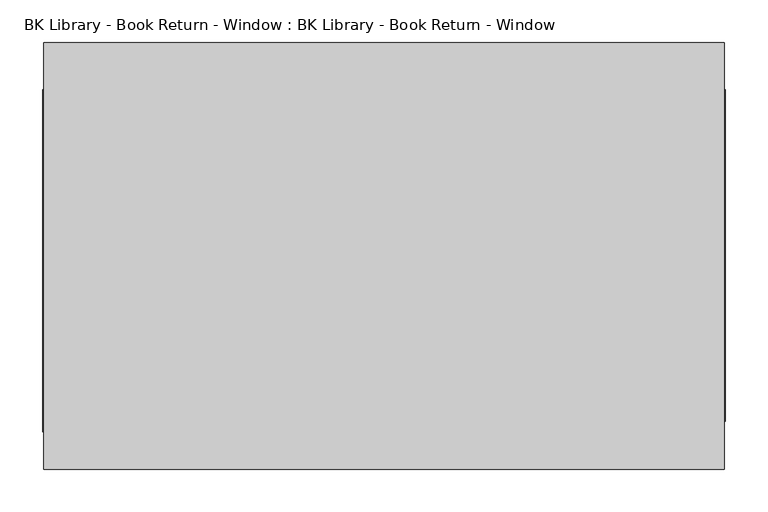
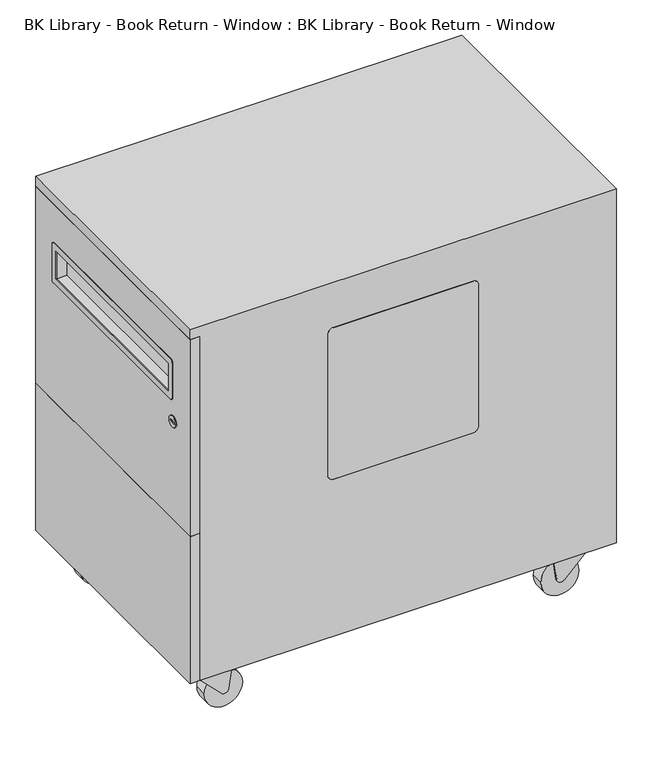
"""IFC4 building model written with IfcOpenShell, lengths in millimetres: furniture geometry, BK Library - Book Return - Window : BK Library - Book Return - Window."""

from ifc_helpers import new_model, si_unit, point, frame, frame_2d, origin, place, context, project, spatial, polyline, circle_curve, trimmed, segment, composite_curve, outline, extrude, source, transform, mapped, element, save
from ifc_brep_helpers import plane_surface, revolved_surface, advanced_brep


def bk_library_book_return_window_bk_library_book_return_window_ee8f2ecb(model_context):
    return source(origin(), model_context, "Body", "SolidModel", [
        extrude(outline(composite_curve([segment(polyline([(697.9636623, -141.0), (417.9636623, -141.0)]), True, "CONTINUOUS"), segment(trimmed(circle_curve(frame_2d((417.9636623, -131.0)), 10.0), [point((417.9636623, -141.0))], [point((407.9636623, -131.0))], False, "CARTESIAN"), True, "CONTINUOUS"), segment(polyline([(407.9636623, -131.0), (407.9636623, 131.0)]), True, "CONTINUOUS"), segment(trimmed(circle_curve(frame_2d((417.9636623, 131.0)), 10.0), [point((407.9636623, 131.0))], [point((417.9636623, 141.0))], False, "CARTESIAN"), True, "CONTINUOUS"), segment(polyline([(417.9636623, 141.0), (697.9636623, 141.0)]), True, "CONTINUOUS"), segment(trimmed(circle_curve(frame_2d((697.9636623, 131.0)), 10.0), [point((697.9636623, 141.0))], [point((707.9636623, 131.0))], False, "CARTESIAN"), True, "CONTINUOUS"), segment(polyline([(707.9636623, 131.0), (707.9636623, -131.0)]), True, "CONTINUOUS"), segment(trimmed(circle_curve(frame_2d((697.9636623, -131.0)), 10.0), [point((707.9636623, -131.0))], [point((697.9636623, -141.0))], False, "CARTESIAN"), True, "CONTINUOUS")], self_intersect=False)), frame((0.0, -251.0, 0.0), z_axis=(0.0, 1.0, 0.0), x_axis=(0.0, 0.0, 1.0)), (0.0, 0.0, 1.0), 20.0),
        extrude(outline(composite_curve([segment(trimmed(circle_curve(frame_2d((189.5, 697.4636623)), 5.0), [point((189.5, 702.4636623))], [point((194.5, 697.4636623))], False, "CARTESIAN"), True, "CONTINUOUS"), segment(polyline([(194.5, 697.4636623), (194.5, 628.4636623)]), True, "CONTINUOUS"), segment(trimmed(circle_curve(frame_2d((189.5, 628.4636623)), 5.0), [point((194.5, 628.4636623))], [point((189.5, 623.4636623))], False, "CARTESIAN"), True, "CONTINUOUS"), segment(polyline([(189.5, 623.4636623), (-189.5, 623.4636623)]), True, "CONTINUOUS"), segment(trimmed(circle_curve(frame_2d((-189.5, 628.4636623)), 5.0), [point((-189.5, 623.4636623))], [point((-194.5, 628.4636623))], False, "CARTESIAN"), True, "CONTINUOUS"), segment(polyline([(-194.5, 628.4636623), (-194.5, 697.4636623)]), True, "CONTINUOUS"), segment(trimmed(circle_curve(frame_2d((-189.5, 697.4636623)), 5.0), [point((-194.5, 697.4636623))], [point((-189.5, 702.4636623))], False, "CARTESIAN"), True, "CONTINUOUS"), segment(polyline([(-189.5, 702.4636623), (189.5, 702.4636623)]), True, "CONTINUOUS")], self_intersect=False), holes=[polyline([(182.5, 690.4636623), (-182.5, 690.4636623), (-182.5, 635.4636623), (182.5, 635.4636623), (182.5, 690.4636623)])]), frame((399.0, 0.0, 0.0), z_axis=(1.0, 0.0, 0.0), x_axis=(0.0, 1.0, 0.0)), (0.0, 0.0, 1.0), 1.5),
        advanced_brep(
        [(380.0, 225.0, 117.9690471), (380.0, -231.0, 117.9690471), (380.0, -231.0, 777.9636623), (380.0, 225.0, 777.9636623), (380.0, 182.5, 690.4636623), (380.0, -182.5, 690.4636623), (380.0, -182.5, 635.4636623), (380.0, 182.5, 635.4636623), (399.0, 250.0, 796.9636623), (399.0, -251.0, 796.9636623), (399.0, -251.0, 97.0), (399.0, 250.0, 97.0), (399.0, 182.5, 690.4636623), (399.0, 182.5, 635.4636623), (399.0, -182.5, 635.4636623), (399.0, -182.5, 690.4636623), (-380.0, 250.0, 97.0), (-380.0, -251.0, 97.0), (-380.0, -251.0, 777.9636623), (-380.0, -231.0, 777.9636623), (-380.0, -231.0, 117.9690471), (-380.0, 225.0, 117.9690471), (-380.0, 225.0, 777.9636623), (-380.0, 250.0, 777.9636623), (-399.0, 250.0, 777.9636623), (-399.0, 250.0, 796.9636623), (-399.0, -251.0, 796.9636623), (-399.0, -251.0, 777.9636623), (-141.0, -251.0, 417.9636623), (-141.0, -251.0, 697.9636623), (-131.0, -251.0, 707.9636623), (131.0, -251.0, 707.9636623), (141.0, -251.0, 697.9636623), (141.0, -251.0, 417.9636623), (131.0, -251.0, 407.9636623), (-131.0, -251.0, 407.9636623), (-141.0, -231.0, 697.9636623), (-141.0, -231.0, 417.9636623), (-131.0, -231.0, 407.9636623), (131.0, -231.0, 407.9636623), (141.0, -231.0, 417.9636623), (141.0, -231.0, 697.9636623), (131.0, -231.0, 707.9636623), (-131.0, -231.0, 707.9636623)],
        [
            (0, 1),
            (1, 2),
            (2, 3),
            (3, 0),
            (4, 5),
            (5, 6),
            (6, 7),
            (7, 4),
            (8, 9),
            (9, 10),
            (10, 11),
            (11, 8),
            (12, 13),
            (13, 14),
            (14, 15),
            (15, 12),
            (16, 17),
            (17, 18),
            (18, 19),
            (19, 20),
            (20, 21),
            (21, 22),
            (22, 23),
            (23, 16),
            (20, 1),
            (0, 21),
            (10, 17),
            (16, 11),
            (23, 24),
            (24, 25),
            (25, 8),
            (25, 26),
            (26, 9),
            (26, 27),
            (27, 18),
            (28, 29),
            (29, 30, circle_curve(frame((-131.0, -251.0, 697.9636623), z_axis=(0.0, 1.0, 0.0), x_axis=(1.0, 0.0, 0.0)), 10.0)),
            (30, 31),
            (31, 32, circle_curve(frame((131.0, -251.0, 697.9636623), z_axis=(0.0, 1.0, 0.0), x_axis=(1.0, 0.0, 0.0)), 10.0)),
            (32, 33),
            (33, 34, circle_curve(frame((131.0, -251.0, 417.9636623), z_axis=(0.0, 1.0, 0.0), x_axis=(1.0, 0.0, 0.0)), 10.0)),
            (34, 35),
            (35, 28, circle_curve(frame((-131.0, -251.0, 417.9636623), z_axis=(0.0, 1.0, 0.0), x_axis=(1.0, 0.0, 0.0)), 10.0)),
            (2, 19),
            (27, 24),
            (22, 3),
            (36, 37),
            (37, 38, circle_curve(frame((-131.0, -231.0, 417.9636623), z_axis=(0.0, -1.0, 0.0), x_axis=(1.0, 0.0, 0.0)), 10.0)),
            (38, 39),
            (39, 40, circle_curve(frame((131.0, -231.0, 417.9636623), z_axis=(0.0, -1.0, 0.0), x_axis=(1.0, 0.0, 0.0)), 10.0)),
            (40, 41),
            (41, 42, circle_curve(frame((131.0, -231.0, 697.9636623), z_axis=(0.0, -1.0, 0.0), x_axis=(1.0, 0.0, 0.0)), 10.0)),
            (42, 43),
            (43, 36, circle_curve(frame((-131.0, -231.0, 697.9636623), z_axis=(0.0, -1.0, 0.0), x_axis=(1.0, 0.0, 0.0)), 10.0)),
            (4, 12),
            (15, 5),
            (14, 6),
            (13, 7),
            (36, 29),
            (28, 37),
            (35, 38),
            (34, 39),
            (33, 40),
            (32, 41),
            (31, 42),
            (30, 43),
        ],
        [
            plane_surface(frame((380.0, -231.0, 134.7192085), z_axis=(-1.0, 0.0, 0.0), x_axis=(0.0, 0.0, 1.0))),
            plane_surface(frame((399.0, 194.2115841, 117.9690471), z_axis=(1.0, 0.0, 0.0), x_axis=(0.0, -1.0, 0.0))),
            plane_surface(frame((-380.0, 194.2115841, 117.9690471), z_axis=(-1.0, 0.0, 0.0), x_axis=(0.0, 1.0, 0.0))),
            plane_surface(frame((399.0, 225.0, 117.9690471), z_axis=(0.0, 0.0, 1.0), x_axis=(-1.0, 0.0, 0.0))),
            plane_surface(frame((399.0, -251.0, 97.0), z_axis=(0.0, 0.0, -1.0), x_axis=(-1.0, 0.0, 0.0))),
            plane_surface(frame((399.0, 250.0, 97.0), z_axis=(0.0, 1.0, 0.0), x_axis=(-1.0, 0.0, 0.0))),
            plane_surface(frame((399.0, 250.0, 796.9636623), z_axis=(0.0, 0.0, 1.0), x_axis=(-1.0, 0.0, 0.0))),
            plane_surface(frame((399.0, -251.0, 796.9636623), z_axis=(0.0, -1.0, 0.0), x_axis=(-1.0, 0.0, 0.0))),
            plane_surface(frame((399.0, -231.0, 777.9636623), z_axis=(0.0, 0.0, -1.0), x_axis=(-1.0, 0.0, 0.0))),
            plane_surface(frame((399.0, 225.0, 777.9636623), z_axis=(0.0, -1.0, 0.0), x_axis=(-1.0, 0.0, 0.0))),
            plane_surface(frame((399.0, -231.0, 117.9690471), z_axis=(0.0, 1.0, 0.0), x_axis=(-1.0, 0.0, 0.0))),
            plane_surface(frame((380.0, 182.5, 690.4636623), z_axis=(0.0, 0.0, -1.0), x_axis=(1.0, 0.0, 0.0))),
            plane_surface(frame((380.0, -182.5, 690.4636623), z_axis=(0.0, 1.0, 0.0), x_axis=(1.0, 0.0, 0.0))),
            plane_surface(frame((380.0, -182.5, 635.4636623), z_axis=(0.0, 0.0, 1.0), x_axis=(1.0, 0.0, 0.0))),
            plane_surface(frame((380.0, 182.5, 635.4636623), z_axis=(0.0, -1.0, 0.0), x_axis=(1.0, 0.0, 0.0))),
            plane_surface(frame((-141.0, -346.9797324, 697.9636623), z_axis=(1.0, 0.0, 0.0), x_axis=(0.0, 1.0, 0.0))),
            revolved_surface(polyline([(-121.0, -251.0, 417.9636623), (-121.0, -231.0, 417.9636623)]), (-131.0, -182.5, 417.9636623), (0.0, -1.0, 0.0)),
            plane_surface(frame((-131.0, -346.9797324, 407.9636623), z_axis=(0.0, 0.0, 1.0), x_axis=(0.0, 1.0, 0.0))),
            revolved_surface(polyline([(141.0, -251.0, 417.9636623), (141.0, -231.0, 417.9636623)]), (131.0, -182.5, 417.9636623), (0.0, -1.0, 0.0)),
            plane_surface(frame((141.0, -346.9797324, 417.9636623), z_axis=(-1.0, 0.0, 0.0), x_axis=(0.0, 1.0, 0.0))),
            revolved_surface(polyline([(141.0, -251.0, 697.9636623), (141.0, -231.0, 697.9636623)]), (131.0, -182.5, 697.9636623), (0.0, -1.0, 0.0)),
            plane_surface(frame((131.0, -346.9797324, 707.9636623), z_axis=(0.0, 0.0, -1.0), x_axis=(0.0, 1.0, 0.0))),
            revolved_surface(polyline([(-121.0, -251.0, 697.9636623), (-121.0, -231.0, 697.9636623)]), (-131.0, -182.5, 697.9636623), (0.0, -1.0, 0.0)),
            plane_surface(frame((-399.0, 201.5, 777.9636623), z_axis=(-1.0, 0.0, 0.0), x_axis=(0.0, -1.0, 0.0))),
        ],
        [
            (0, [[1, 2, 3, 4], [5, 6, 7, 8]]),
            (1, [[9, 10, 11, 12], [13, 14, 15, 16]]),
            (2, [[17, 18, 19, 20, 21, 22, 23, 24]]),
            (3, [[-21, 25, -1, 26]]),
            (4, [[-11, 27, -17, 28]]),
            (5, [[-12, -28, -24, 29, 30, 31]]),
            (6, [[-9, -31, 32, 33]]),
            (7, [[-10, -33, 34, 35, -18, -27], [36, 37, 38, 39, 40, 41, 42, 43]]),
            (8, [[44, -19, -35, 45, -29, -23, 46, -3]]),
            (9, [[-22, -26, -4, -46]]),
            (10, [[-20, -44, -2, -25], [47, 48, 49, 50, 51, 52, 53, 54]]),
            (11, [[-5, 55, -16, 56]]),
            (12, [[-6, -56, -15, 57]]),
            (13, [[-7, -57, -14, 58]]),
            (14, [[-8, -58, -13, -55]]),
            (15, [[59, -36, 60, -47]]),
            (16, [[-60, -43, 61, -48]]),
            (17, [[-61, -42, 62, -49]]),
            (18, [[-62, -41, 63, -50]]),
            (19, [[-63, -40, 64, -51]]),
            (20, [[-64, -39, 65, -52]]),
            (21, [[-65, -38, 66, -53]]),
            (22, [[-59, -54, -66, -37]]),
            (23, [[-34, -32, -30, -45]]),
        ],
    ),
        extrude(outline(polyline([(-380.0, 250.0), (-380.0, -251.0), (-399.0, -251.0), (-399.0, 250.0), (-380.0, 250.0)])), frame((0.0, 0.0, 97.0), z_axis=(0.0, 0.0, 1.0), x_axis=(1.0, 0.0, 0.0)), (0.0, 0.0, 1.0), 290.9636623),
        extrude(outline(composite_curve([segment(trimmed(circle_curve(frame_2d((350.5, 200.546849)), 12.5248147), [point((363.0248147, 200.546849))], [point((337.9751853, 200.546849))], False, "CARTESIAN"), True, "CONTINUOUS"), segment(trimmed(circle_curve(frame_2d((350.5, 200.546849)), 12.5248147), [point((337.9751853, 200.546849))], [point((363.0248147, 200.546849))], False, "CARTESIAN"), True, "CONTINUOUS")], self_intersect=False)), frame((0.0, 0.0, 87.7), z_axis=(0.0, 0.0, 1.0), x_axis=(1.0, 0.0, 0.0)), (0.0, 0.0, 1.0), 9.3),
        extrude(outline(composite_curve([segment(trimmed(circle_curve(frame_2d((72.665374, 287.589297)), 2.0), [point((72.665374, 285.589297))], [point((70.6957585, 287.2420006))], False, "CARTESIAN"), True, "CONTINUOUS"), segment(polyline([(70.6957585, 287.2420006), (68.1469989, 301.6967348)]), True, "CONTINUOUS"), segment(trimmed(circle_curve(frame_2d((66.1773834, 301.3494384)), 2.0), [point((68.1469989, 301.6967348))], [point((66.4454242, 303.3313956))], True, "CARTESIAN"), True, "CONTINUOUS"), segment(polyline([(66.4454242, 303.3313956), (34.4278369, 307.6614684)]), True, "CONTINUOUS"), segment(trimmed(circle_curve(frame_2d((35.5, 315.589297)), 8.0), [point((34.4278369, 307.6614684))], [point((29.8327739, 321.2357603))], False, "CARTESIAN"), True, "CONTINUOUS"), segment(polyline([(29.8327739, 321.2357603), (80.4985188, 372.0878103), (88.2, 372.0878103), (88.2, 285.589297), (72.665374, 285.589297)]), True, "CONTINUOUS")], self_intersect=False)), frame((0.0, 184.5, 0.0), z_axis=(0.0, 1.0, 0.0), x_axis=(0.0, 0.0, 1.0)), (0.0, 0.0, 1.0), 32.0),
        extrude(outline(composite_curve([segment(trimmed(circle_curve(frame_2d((35.6872146, 315.4857255)), 35.6947525), [point((35.6872146, 279.790973))], [point((35.6872146, 351.1804779))], False, "CARTESIAN"), True, "CONTINUOUS"), segment(trimmed(circle_curve(frame_2d((35.6872146, 315.4857255)), 35.6947525), [point((35.6872146, 351.1804779))], [point((35.6872146, 279.790973))], False, "CARTESIAN"), True, "CONTINUOUS")], self_intersect=False)), frame((0.0, 188.5, 0.0), z_axis=(0.0, 1.0, 0.0), x_axis=(0.0, 0.0, 1.0)), (0.0, 0.0, 1.0), 24.0),
        extrude(outline(composite_curve([segment(trimmed(circle_curve(frame_2d((350.5, -200.546849)), 12.5248147), [point((363.0248147, -200.546849))], [point((337.9751853, -200.546849))], False, "CARTESIAN"), True, "CONTINUOUS"), segment(trimmed(circle_curve(frame_2d((350.5, -200.546849)), 12.5248147), [point((337.9751853, -200.546849))], [point((363.0248147, -200.546849))], False, "CARTESIAN"), True, "CONTINUOUS")], self_intersect=False)), frame((0.0, 0.0, 87.7), z_axis=(0.0, 0.0, 1.0), x_axis=(1.0, 0.0, 0.0)), (0.0, 0.0, 1.0), 9.3),
        extrude(outline(composite_curve([segment(trimmed(circle_curve(frame_2d((72.665374, 287.589297)), 2.0), [point((72.665374, 285.589297))], [point((70.6957585, 287.2420006))], False, "CARTESIAN"), True, "CONTINUOUS"), segment(polyline([(70.6957585, 287.2420006), (68.1469989, 301.6967348)]), True, "CONTINUOUS"), segment(trimmed(circle_curve(frame_2d((66.1773834, 301.3494384)), 2.0), [point((68.1469989, 301.6967348))], [point((66.4454242, 303.3313956))], True, "CARTESIAN"), True, "CONTINUOUS"), segment(polyline([(66.4454242, 303.3313956), (34.4278369, 307.6614684)]), True, "CONTINUOUS"), segment(trimmed(circle_curve(frame_2d((35.5, 315.589297)), 8.0), [point((34.4278369, 307.6614684))], [point((29.8327739, 321.2357603))], False, "CARTESIAN"), True, "CONTINUOUS"), segment(polyline([(29.8327739, 321.2357603), (80.4985188, 372.0878103), (88.2, 372.0878103), (88.2, 285.589297), (72.665374, 285.589297)]), True, "CONTINUOUS")], self_intersect=False)), frame((0.0, -216.5, 0.0), z_axis=(0.0, 1.0, 0.0), x_axis=(0.0, 0.0, 1.0)), (0.0, 0.0, 1.0), 32.0),
        extrude(outline(composite_curve([segment(trimmed(circle_curve(frame_2d((35.6872146, 315.4857255)), 35.6947525), [point((35.6872146, 279.790973))], [point((35.6872146, 351.1804779))], False, "CARTESIAN"), True, "CONTINUOUS"), segment(trimmed(circle_curve(frame_2d((35.6872146, 315.4857255)), 35.6947525), [point((35.6872146, 351.1804779))], [point((35.6872146, 279.790973))], False, "CARTESIAN"), True, "CONTINUOUS")], self_intersect=False)), frame((0.0, -212.5, 0.0), z_axis=(0.0, 1.0, 0.0), x_axis=(0.0, 0.0, 1.0)), (0.0, 0.0, 1.0), 24.0),
        extrude(outline(composite_curve([segment(trimmed(circle_curve(frame_2d((-349.5292285, -200.546849)), 12.5248147), [point((-362.0540432, -200.546849))], [point((-337.0044137, -200.546849))], False, "CARTESIAN"), True, "CONTINUOUS"), segment(trimmed(circle_curve(frame_2d((-349.5292285, -200.546849)), 12.5248147), [point((-337.0044137, -200.546849))], [point((-362.0540432, -200.546849))], False, "CARTESIAN"), True, "CONTINUOUS")], self_intersect=False)), frame((0.0, 0.0, 87.7), z_axis=(0.0, 0.0, 1.0), x_axis=(1.0, 0.0, 0.0)), (0.0, 0.0, 1.0), 9.3),
        extrude(outline(composite_curve([segment(polyline([(72.665374, -284.6185255), (88.2, -284.6185255), (88.2, -371.1170388), (80.4985188, -371.1170388), (29.8327739, -320.2649888)]), True, "CONTINUOUS"), segment(trimmed(circle_curve(frame_2d((35.5, -314.6185255)), 8.0), [point((29.8327739, -320.2649888))], [point((34.4278369, -306.6906969))], False, "CARTESIAN"), True, "CONTINUOUS"), segment(polyline([(34.4278369, -306.6906969), (66.4454242, -302.360624)]), True, "CONTINUOUS"), segment(trimmed(circle_curve(frame_2d((66.1773834, -300.3786669)), 2.0), [point((66.4454242, -302.360624))], [point((68.1469989, -300.7259632))], True, "CARTESIAN"), True, "CONTINUOUS"), segment(polyline([(68.1469989, -300.7259632), (70.6957585, -286.2712291)]), True, "CONTINUOUS"), segment(trimmed(circle_curve(frame_2d((72.665374, -286.6185255)), 2.0), [point((70.6957585, -286.2712291))], [point((72.665374, -284.6185255))], False, "CARTESIAN"), True, "CONTINUOUS")], self_intersect=False)), frame((0.0, -216.5, 0.0), z_axis=(0.0, 1.0, 0.0), x_axis=(0.0, 0.0, 1.0)), (0.0, 0.0, 1.0), 32.0),
        extrude(outline(composite_curve([segment(trimmed(circle_curve(frame_2d((35.6872146, -314.5149539)), 35.6947525), [point((35.6872146, -278.8202015))], [point((35.6872146, -350.2097064))], False, "CARTESIAN"), True, "CONTINUOUS"), segment(trimmed(circle_curve(frame_2d((35.6872146, -314.5149539)), 35.6947525), [point((35.6872146, -350.2097064))], [point((35.6872146, -278.8202015))], False, "CARTESIAN"), True, "CONTINUOUS")], self_intersect=False)), frame((0.0, -212.5, 0.0), z_axis=(0.0, 1.0, 0.0), x_axis=(0.0, 0.0, 1.0)), (0.0, 0.0, 1.0), 24.0),
        extrude(outline(composite_curve([segment(trimmed(circle_curve(frame_2d((-195.9999965, 582.9636623)), 11.0), [point((-206.9999965, 582.9636623))], [point((-184.9999965, 582.9636623))], False, "CARTESIAN"), True, "CONTINUOUS"), segment(trimmed(circle_curve(frame_2d((-195.9999965, 582.9636623)), 11.0), [point((-184.9999965, 582.9636623))], [point((-206.9999965, 582.9636623))], False, "CARTESIAN"), True, "CONTINUOUS")], self_intersect=False), holes=[polyline([(-202.0000035, 584.4636482), (-202.0000035, 581.4636763), (-189.9999965, 581.4636763), (-189.9999965, 584.4636482), (-202.0000035, 584.4636482)])]), frame((-400.5, 0.0, 0.0), z_axis=(1.0, 0.0, 0.0), x_axis=(0.0, 1.0, 0.0)), (0.0, 0.0, 1.0), 1.5),
        extrude(outline(composite_curve([segment(trimmed(circle_curve(frame_2d((189.5, 697.4636623)), 5.0), [point((189.5, 702.4636623))], [point((194.5, 697.4636623))], False, "CARTESIAN"), True, "CONTINUOUS"), segment(polyline([(194.5, 697.4636623), (194.5, 628.4636623)]), True, "CONTINUOUS"), segment(trimmed(circle_curve(frame_2d((189.5, 628.4636623)), 5.0), [point((194.5, 628.4636623))], [point((189.5, 623.4636623))], False, "CARTESIAN"), True, "CONTINUOUS"), segment(polyline([(189.5, 623.4636623), (-189.5, 623.4636623)]), True, "CONTINUOUS"), segment(trimmed(circle_curve(frame_2d((-189.5, 628.4636623)), 5.0), [point((-189.5, 623.4636623))], [point((-194.5, 628.4636623))], False, "CARTESIAN"), True, "CONTINUOUS"), segment(polyline([(-194.5, 628.4636623), (-194.5, 697.4636623)]), True, "CONTINUOUS"), segment(trimmed(circle_curve(frame_2d((-189.5, 697.4636623)), 5.0), [point((-194.5, 697.4636623))], [point((-189.5, 702.4636623))], False, "CARTESIAN"), True, "CONTINUOUS"), segment(polyline([(-189.5, 702.4636623), (189.5, 702.4636623)]), True, "CONTINUOUS")], self_intersect=False), holes=[polyline([(182.5, 690.4636623), (-182.5, 690.4636623), (-182.5, 635.4636623), (182.5, 635.4636623), (182.5, 690.4636623)])]), frame((-400.5, 0.0, 0.0), z_axis=(1.0, 0.0, 0.0), x_axis=(0.0, 1.0, 0.0)), (0.0, 0.0, 1.0), 1.5),
        extrude(outline(composite_curve([segment(trimmed(circle_curve(frame_2d((-349.5292285, 200.546849)), 12.5248147), [point((-362.0540432, 200.546849))], [point((-337.0044137, 200.546849))], False, "CARTESIAN"), True, "CONTINUOUS"), segment(trimmed(circle_curve(frame_2d((-349.5292285, 200.546849)), 12.5248147), [point((-337.0044137, 200.546849))], [point((-362.0540432, 200.546849))], False, "CARTESIAN"), True, "CONTINUOUS")], self_intersect=False)), frame((0.0, 0.0, 87.7), z_axis=(0.0, 0.0, 1.0), x_axis=(1.0, 0.0, 0.0)), (0.0, 0.0, 1.0), 9.3),
        extrude(outline(composite_curve([segment(polyline([(72.665374, -284.6185255), (88.2, -284.6185255), (88.2, -371.1170388), (80.4985188, -371.1170388), (29.8327739, -320.2649888)]), True, "CONTINUOUS"), segment(trimmed(circle_curve(frame_2d((35.5, -314.6185255)), 8.0), [point((29.8327739, -320.2649888))], [point((34.4278369, -306.6906969))], False, "CARTESIAN"), True, "CONTINUOUS"), segment(polyline([(34.4278369, -306.6906969), (66.4454242, -302.360624)]), True, "CONTINUOUS"), segment(trimmed(circle_curve(frame_2d((66.1773834, -300.3786669)), 2.0), [point((66.4454242, -302.360624))], [point((68.1469989, -300.7259632))], True, "CARTESIAN"), True, "CONTINUOUS"), segment(polyline([(68.1469989, -300.7259632), (70.6957585, -286.2712291)]), True, "CONTINUOUS"), segment(trimmed(circle_curve(frame_2d((72.665374, -286.6185255)), 2.0), [point((70.6957585, -286.2712291))], [point((72.665374, -284.6185255))], False, "CARTESIAN"), True, "CONTINUOUS")], self_intersect=False)), frame((0.0, 184.5, 0.0), z_axis=(0.0, 1.0, 0.0), x_axis=(0.0, 0.0, 1.0)), (0.0, 0.0, 1.0), 32.0),
        extrude(outline(composite_curve([segment(trimmed(circle_curve(frame_2d((35.6872146, -314.5149539)), 35.6947525), [point((35.6872146, -278.8202015))], [point((35.6872146, -350.2097064))], False, "CARTESIAN"), True, "CONTINUOUS"), segment(trimmed(circle_curve(frame_2d((35.6872146, -314.5149539)), 35.6947525), [point((35.6872146, -350.2097064))], [point((35.6872146, -278.8202015))], False, "CARTESIAN"), True, "CONTINUOUS")], self_intersect=False)), frame((0.0, 188.5, 0.0), z_axis=(0.0, 1.0, 0.0), x_axis=(0.0, 0.0, 1.0)), (0.0, 0.0, 1.0), 24.0),
        extrude(outline(polyline([(-251.0, 387.9636623), (-251.0, 777.9636623), (250.0, 777.9636623), (250.0, 387.9636623), (-251.0, 387.9636623)]), holes=[polyline([(182.5, 690.4636623), (-182.5, 690.4636623), (-182.5, 635.4636623), (182.5, 635.4636623), (182.5, 690.4636623)])]), frame((-399.0, 0.0, 0.0), z_axis=(1.0, 0.0, 0.0), x_axis=(0.0, 1.0, 0.0)), (0.0, 0.0, 1.0), 19.0),
    ])


if __name__ == "__main__":
    model = new_model("IFC4")
    model_context = context("Model", 3, world=origin())
    ifc_project = project(units=[si_unit("LENGTHUNIT", "METRE", prefix="MILLI")], contexts=[model_context])
    site = spatial("IfcSite", under=ifc_project)
    building = spatial("IfcBuilding", under=site)
    placement = place(None, origin())
    bk_library_book_return_window_bk_library_book_return_window_shape = bk_library_book_return_window_bk_library_book_return_window_ee8f2ecb(model_context)
    element("IfcFurniture", 1, ObjectType="BK Library - Book Return - Window : BK Library - Book Return - Window", at=placement, inside=building, context=model_context, shape_type="MappedRepresentation", body=[
        mapped(bk_library_book_return_window_bk_library_book_return_window_shape, transform((0.0, 0.0, 0.0), x_axis=(1.0, 0.0, 0.0), y_axis=(0.0, 1.0, 0.0), z_axis=(0.0, 0.0, 1.0))),
    ])
    save(model, "model.ifc")
